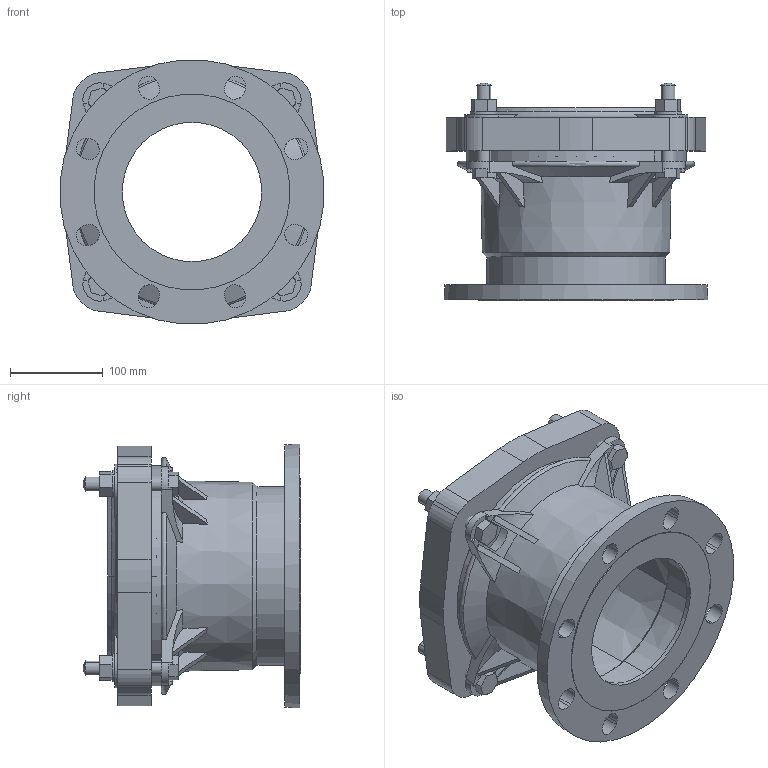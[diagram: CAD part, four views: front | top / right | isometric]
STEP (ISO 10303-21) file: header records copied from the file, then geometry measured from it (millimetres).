
FILE_DESCRIPTION((''),'2;1');
FILE_NAME('BIM_13199_8_ASM','2020-04-01T',('MReader'),(''),'CREO PARAMETRIC BY PTC INC, 2016130','CREO PARAMETRIC BY PTC INC, 2016130','');
FILE_SCHEMA(('CONFIG_CONTROL_DESIGN'));
Length unit declared in the file: millimetre
Products named in the file (5): BIM_12199_2; BIM_12233; BIM_M16_BOLT_90; BIM_13128_6; BIM_13199_8_ASM
Assembly tree (7 placements, depth 2):
  BIM_13199_8_ASM
    BIM_12199_2
    BIM_12233
    BIM_M16_BOLT_90  x4
    BIM_13128_6
Bounding box: 283.92 x 234 x 283.92 mm (x, y, z)
Volume: 3146791.7 mm3; surface area: 553305.4 mm2
Topology: 7 solids, 7 shells, 303 faces, 806 edges, 524 vertices
Faces by surface type: plane 181, cylinder 80, cone 26, torus 8, sphere 8
Entity records: 9177 total; most frequent: CARTESIAN_POINT 2240, ORIENTED_EDGE 1440, DIRECTION 1408, EDGE_CURVE 720, AXIS2_PLACEMENT_3D 509, VERTEX_POINT 473, VECTOR 390, LINE 390
